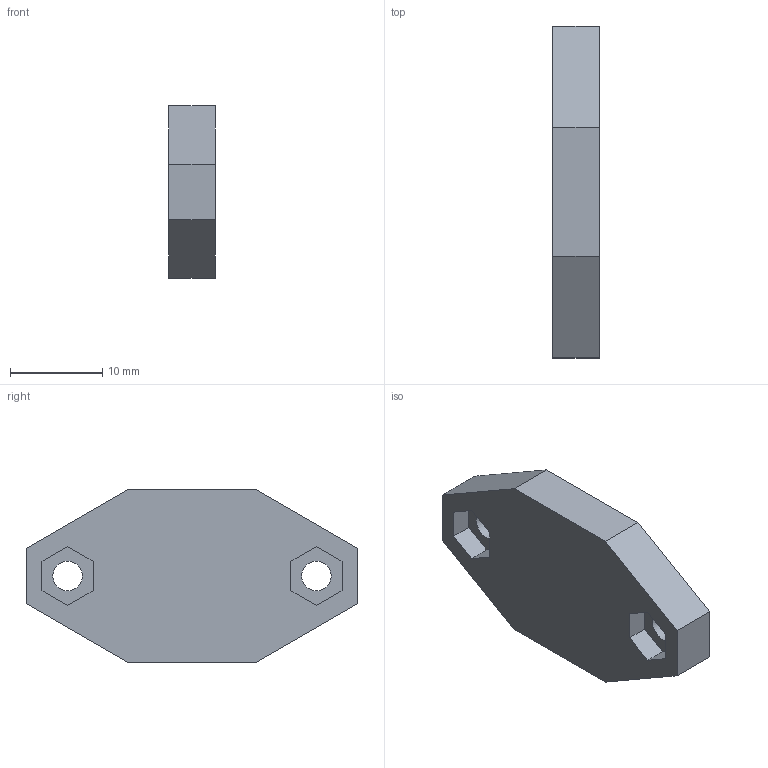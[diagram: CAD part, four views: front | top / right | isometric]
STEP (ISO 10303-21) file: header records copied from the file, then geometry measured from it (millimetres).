
FILE_DESCRIPTION(('FreeCAD Model'),'2;1');
FILE_NAME('Open CASCADE Shape Model','2022-05-26T11:40:24',('Author'),( ''),'Open CASCADE STEP processor 7.5','FreeCAD','Unknown');
FILE_SCHEMA(('AUTOMOTIVE_DESIGN { 1 0 10303 214 1 1 1 1 }'));
Length unit declared in the file: millimetre
Products named in the file (1): Clamp
Bounding box: 5 x 36 x 18.7 mm (x, y, z)
Volume: 2501.9 mm3; surface area: 1631.6 mm2
Topology: 1 solids, 1 shells, 26 faces, 66 edges, 44 vertices
Faces by surface type: plane 24, cylinder 2
Full cylindrical faces by diameter (mm): 3.2 x2
Entity records: 1668 total; most frequent: CARTESIAN_POINT 281, DIRECTION 254, LINE 190, VECTOR 190, ORIENTED_EDGE 132, PCURVE 132, DEFINITIONAL_REPRESENTATION 132, EDGE_CURVE 66
